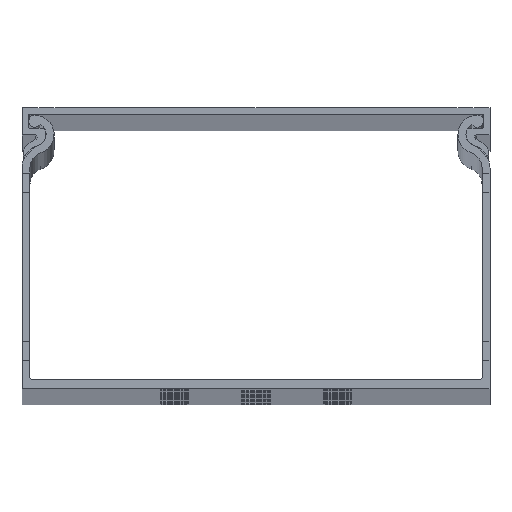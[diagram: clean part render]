
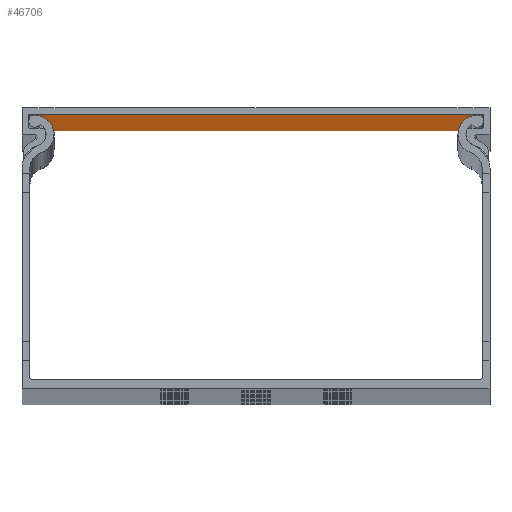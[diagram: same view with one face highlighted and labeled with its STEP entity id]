
A CAD part, top view. The second image highlights one B-rep face of the part: STEP entity #46706.
In plain terms, the highlighted planar face has unit normal (0, -1, 0).
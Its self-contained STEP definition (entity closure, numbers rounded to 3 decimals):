
#5567 = LINE ( 'NONE', #7848, #53759 ) ;
#6159 = CARTESIAN_POINT ( 'NONE',  ( 2520.007, 1295.656, 0. ) ) ;
#6505 = CARTESIAN_POINT ( 'NONE',  ( 2616.807, 1295.656, 2000. ) ) ;
#6814 = FACE_OUTER_BOUND ( 'NONE', #51908, .T. ) ;
#7848 = CARTESIAN_POINT ( 'NONE',  ( 2616.807, 1295.656, 2000. ) ) ;
#9157 = CARTESIAN_POINT ( 'NONE',  ( 2568.407, 1295.656, 0. ) ) ;
#12474 = DIRECTION ( 'NONE',  ( 0., 0., -1. ) ) ;
#13556 = EDGE_CURVE ( 'NONE', #54205, #48255, #14997, .T. ) ;
#13670 = CARTESIAN_POINT ( 'NONE',  ( 2520.007, 1295.656, 2000. ) ) ;
#14997 = LINE ( 'NONE', #9157, #57045 ) ;
#15845 = ORIENTED_EDGE ( 'NONE', *, *, #17551, .F. ) ;
#15908 = LINE ( 'NONE', #13670, #53062 ) ;
#17305 = VERTEX_POINT ( 'NONE', #6505 ) ;
#17551 = EDGE_CURVE ( 'NONE', #17305, #48255, #5567, .T. ) ;
#24487 = PLANE ( 'NONE',  #26429 ) ;
#26429 = AXIS2_PLACEMENT_3D ( 'NONE', #37758, #29442, #33497 ) ;
#29442 = DIRECTION ( 'NONE',  ( 0., 1., 0. ) ) ;
#29663 = CARTESIAN_POINT ( 'NONE',  ( 2520.007, 1295.656, 2000. ) ) ;
#31041 = DIRECTION ( 'NONE',  ( 1., 0., 0. ) ) ;
#31863 = DIRECTION ( 'NONE',  ( 1., 0., 0. ) ) ;
#33497 = DIRECTION ( 'NONE',  ( 0., 0., 1. ) ) ;
#37758 = CARTESIAN_POINT ( 'NONE',  ( 2568.407, 1295.656, 2000. ) ) ;
#40485 = VECTOR ( 'NONE', #31863, 1000. ) ;
#41136 = CARTESIAN_POINT ( 'NONE',  ( 2568.407, 1295.656, 2000. ) ) ;
#44172 = VERTEX_POINT ( 'NONE', #29663 ) ;
#44889 = ORIENTED_EDGE ( 'NONE', *, *, #51524, .T. ) ;
#46706 = ADVANCED_FACE ( 'NONE', ( #6814 ), #24487, .F. ) ;
#48050 = LINE ( 'NONE', #41136, #40485 ) ;
#48255 = VERTEX_POINT ( 'NONE', #49435 ) ;
#48866 = DIRECTION ( 'NONE',  ( 0., 0., -1. ) ) ;
#49435 = CARTESIAN_POINT ( 'NONE',  ( 2616.807, 1295.656, 0. ) ) ;
#51524 = EDGE_CURVE ( 'NONE', #44172, #54205, #15908, .T. ) ;
#51908 = EDGE_LOOP ( 'NONE', ( #55725, #15845, #56981, #44889 ) ) ;
#53062 = VECTOR ( 'NONE', #48866, 1000. ) ;
#53102 = EDGE_CURVE ( 'NONE', #44172, #17305, #48050, .T. ) ;
#53759 = VECTOR ( 'NONE', #12474, 1000. ) ;
#54205 = VERTEX_POINT ( 'NONE', #6159 ) ;
#55725 = ORIENTED_EDGE ( 'NONE', *, *, #13556, .T. ) ;
#56981 = ORIENTED_EDGE ( 'NONE', *, *, #53102, .F. ) ;
#57045 = VECTOR ( 'NONE', #31041, 1000. ) ;
